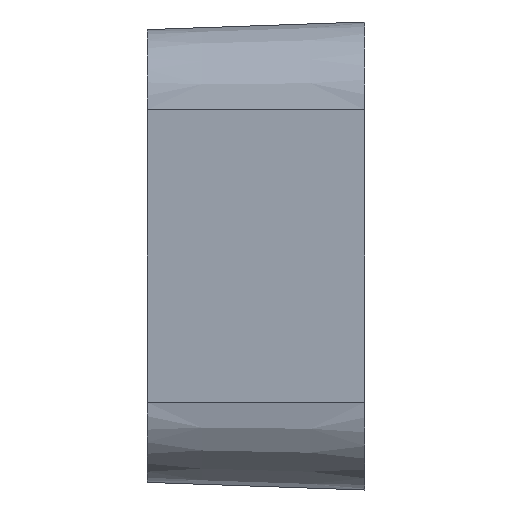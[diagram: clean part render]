
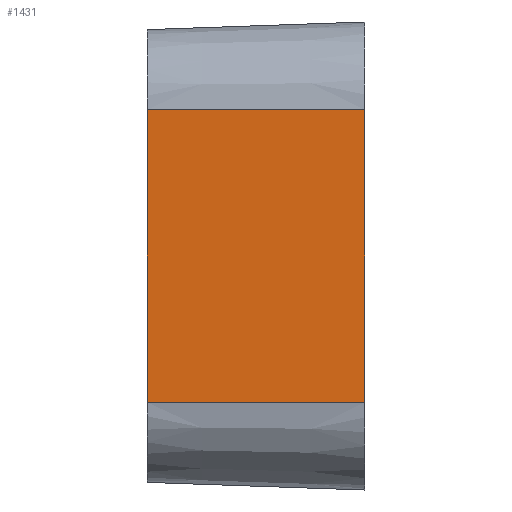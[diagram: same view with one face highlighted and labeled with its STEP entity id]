
A CAD part, left-side view. The second image highlights one B-rep face of the part: STEP entity #1431.
In plain terms, the highlighted planar face has unit normal (-0.999, 0.035, 0).
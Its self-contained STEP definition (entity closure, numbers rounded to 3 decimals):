
#1045 = VERTEX_POINT('',#1046);
#1046 = CARTESIAN_POINT('',(-44.,-22.9,10.));
#1053 = EDGE_CURVE('',#1045,#1054,#1056,.T.);
#1054 = VERTEX_POINT('',#1055);
#1055 = CARTESIAN_POINT('',(-44.,-22.9,-10.));
#1056 = LINE('',#1057,#1058);
#1057 = CARTESIAN_POINT('',(-44.,-22.9,10.));
#1058 = VECTOR('',#1059,1.);
#1059 = DIRECTION('',(0.,0.,-1.));
#1388 = VERTEX_POINT('',#1389);
#1389 = CARTESIAN_POINT('',(-43.48,-8.,-10.));
#1398 = EDGE_CURVE('',#1388,#1054,#1399,.T.);
#1399 = B_SPLINE_CURVE_WITH_KNOTS('',1,(#1400,#1401),.UNSPECIFIED.,.F.,
  .F.,(2,2),(0.,1.),.PIECEWISE_BEZIER_KNOTS.);
#1400 = CARTESIAN_POINT('',(-43.48,-8.,-10.));
#1401 = CARTESIAN_POINT('',(-44.,-22.9,-10.));
#1431 = ADVANCED_FACE('',(#1432),#1449,.T.);
#1432 = FACE_BOUND('',#1433,.T.);
#1433 = EDGE_LOOP('',(#1434,#1442,#1443,#1444));
#1434 = ORIENTED_EDGE('',*,*,#1435,.T.);
#1435 = EDGE_CURVE('',#1436,#1388,#1438,.T.);
#1436 = VERTEX_POINT('',#1437);
#1437 = CARTESIAN_POINT('',(-43.48,-8.,10.));
#1438 = LINE('',#1439,#1440);
#1439 = CARTESIAN_POINT('',(-43.48,-8.,10.));
#1440 = VECTOR('',#1441,1.);
#1441 = DIRECTION('',(0.,0.,-1.));
#1442 = ORIENTED_EDGE('',*,*,#1398,.T.);
#1443 = ORIENTED_EDGE('',*,*,#1053,.F.);
#1444 = ORIENTED_EDGE('',*,*,#1445,.F.);
#1445 = EDGE_CURVE('',#1436,#1045,#1446,.T.);
#1446 = B_SPLINE_CURVE_WITH_KNOTS('',1,(#1447,#1448),.UNSPECIFIED.,.F.,
  .F.,(2,2),(0.,1.),.PIECEWISE_BEZIER_KNOTS.);
#1447 = CARTESIAN_POINT('',(-43.48,-8.,10.));
#1448 = CARTESIAN_POINT('',(-44.,-22.9,10.));
#1449 = PLANE('',#1450);
#1450 = AXIS2_PLACEMENT_3D('',#1451,#1452,#1453);
#1451 = CARTESIAN_POINT('',(-44.,-22.9,10.));
#1452 = DIRECTION('',(-0.999,0.035,0.));
#1453 = DIRECTION('',(0.,0.,-1.));
